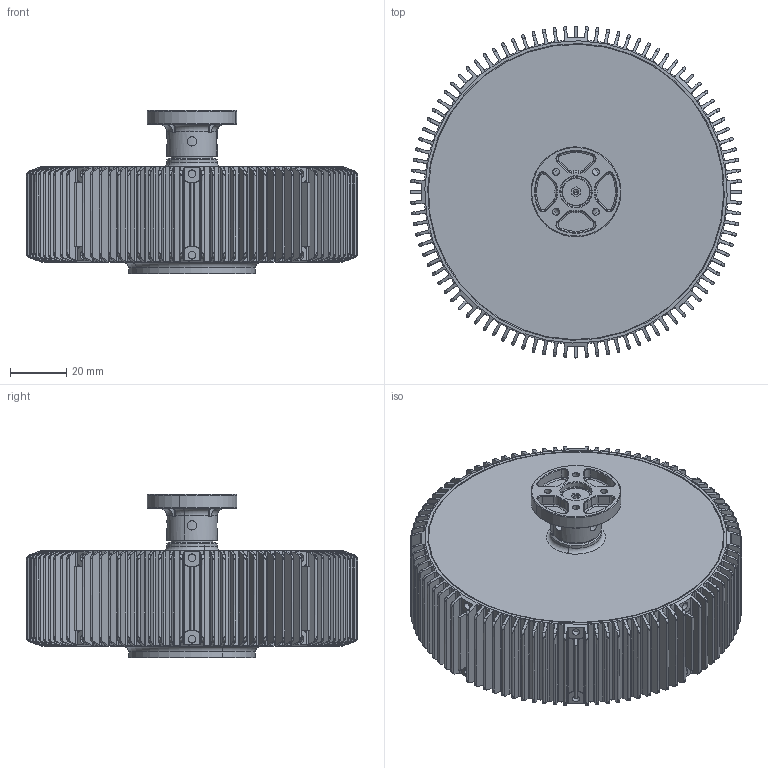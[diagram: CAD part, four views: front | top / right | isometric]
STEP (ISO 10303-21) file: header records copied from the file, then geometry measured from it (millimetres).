
FILE_DESCRIPTION (( 'STEP AP214' ), '1' );
FILE_NAME ('N8L-ZT.STEP', '2026-04-03T08:41:53', ( '' ), ( '' ), 'SwSTEP 2.0', 'SolidWorks 2020', '' );
FILE_SCHEMA (( 'AUTOMOTIVE_DESIGN' ));
Length unit declared in the file: millimetre
Products named in the file (1): N8L-ZT
Bounding box: 118 x 118 x 58 mm (x, y, z)
Volume: 338168.4 mm3; surface area: 62820.4 mm2
Topology: 1 solids, 1 shells, 1168 faces, 3417 edges, 2303 vertices
Faces by surface type: cylinder 571, plane 339, torus 214, cone 44
Entity records: 54285 total; most frequent: CARTESIAN_POINT 25443, ORIENTED_EDGE 6830, DIRECTION 5013, EDGE_CURVE 3415, VERTEX_POINT 2303, AXIS2_PLACEMENT_3D 1981, B_SPLINE_CURVE_WITH_KNOTS 1552, EDGE_LOOP 1230
